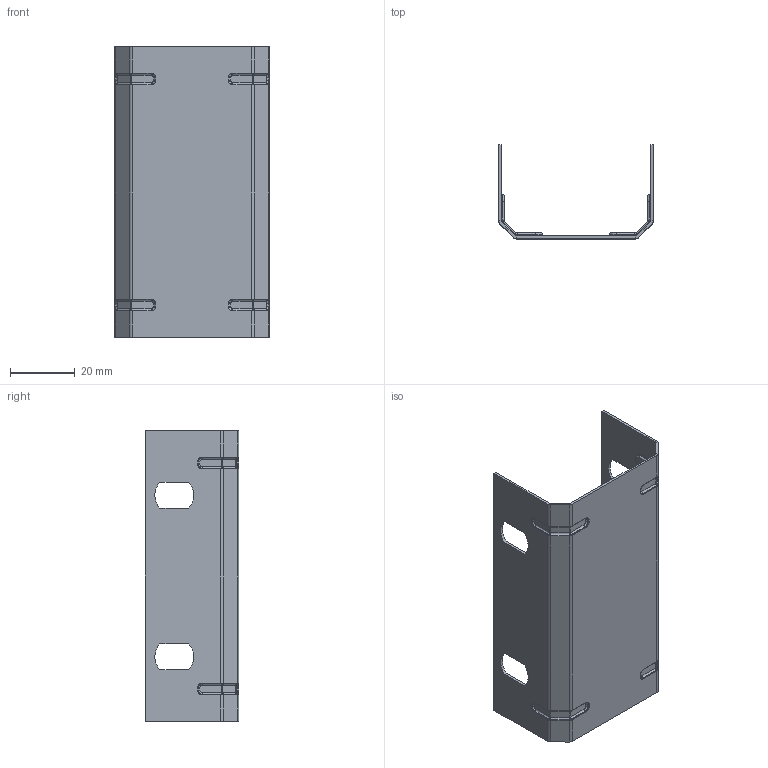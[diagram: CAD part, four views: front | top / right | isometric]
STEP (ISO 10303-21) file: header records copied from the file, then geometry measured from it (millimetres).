
FILE_DESCRIPTION (( 'STEP AP203' ), '1' );
FILE_NAME ('JUER 50x50.STEP', '2020-03-12T15:54:40', ( '' ), ( '' ), 'SwSTEP 2.0', 'SolidWorks 2019', '' );
FILE_SCHEMA (( 'CONFIG_CONTROL_DESIGN' ));
Length unit declared in the file: millimetre
Products named in the file (1): JUER 50x50
Bounding box: 48 x 29 x 90 mm (x, y, z)
Volume: 6942.8 mm3; surface area: 17645.9 mm2
Topology: 1 solids, 1 shells, 454 faces, 1052 edges, 600 vertices
Faces by surface type: cylinder 192, torus 128, plane 102, bspline 32
Entity records: 13145 total; most frequent: CARTESIAN_POINT 2651, DIRECTION 2394, ORIENTED_EDGE 2104, EDGE_CURVE 1052, AXIS2_PLACEMENT_3D 983, VERTEX_POINT 600, CIRCLE 560, EDGE_LOOP 462
